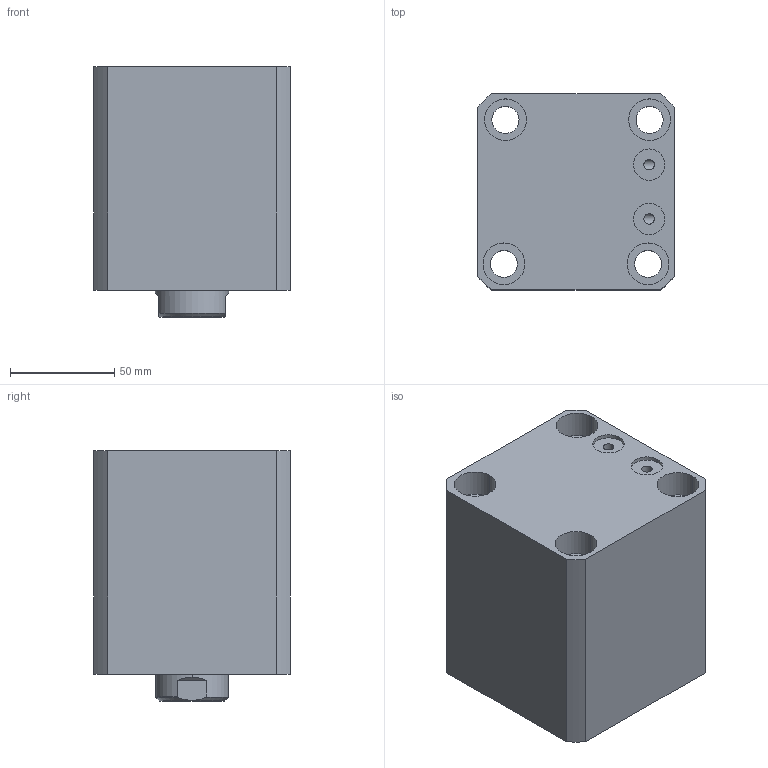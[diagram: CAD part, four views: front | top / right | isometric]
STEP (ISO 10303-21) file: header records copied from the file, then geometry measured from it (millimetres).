
FILE_DESCRIPTION (( 'STEP AP214' ), '1' );
FILE_NAME ('chtb-sdmb63x40n_asm.STEP', '2018-05-16T06:49:43', ( 'Windows' ), ( 'Microsoft' ), 'SwSTEP 2.0', 'SolidWorks 2015', '' );
FILE_SCHEMA (( 'AUTOMOTIVE_DESIGN' ));
Length unit declared in the file: millimetre
Products named in the file (4): CHTB-SDMB63X40NBT; CHTB63X40NHSG; CHTB-63QG; chtb-sdmb63x40n_asm
Assembly tree (3 placements, depth 2):
  chtb-sdmb63x40n_asm
    CHTB-63QG
    CHTB63X40NHSG
    CHTB-SDMB63X40NBT
Bounding box: 94 x 94 x 120 mm (x, y, z)
Volume: 775333.3 mm3; surface area: 136633.8 mm2
Topology: 3 solids, 3 shells, 164 faces, 468 edges, 318 vertices
Faces by surface type: cylinder 107, plane 30, bspline 12, cone 8, torus 7
Entity records: 17708 total; most frequent: CARTESIAN_POINT 13594, ORIENTED_EDGE 924, DIRECTION 707, EDGE_CURVE 462, VERTEX_POINT 318, AXIS2_PLACEMENT_3D 284, EDGE_LOOP 196, FACE_OUTER_BOUND 164
